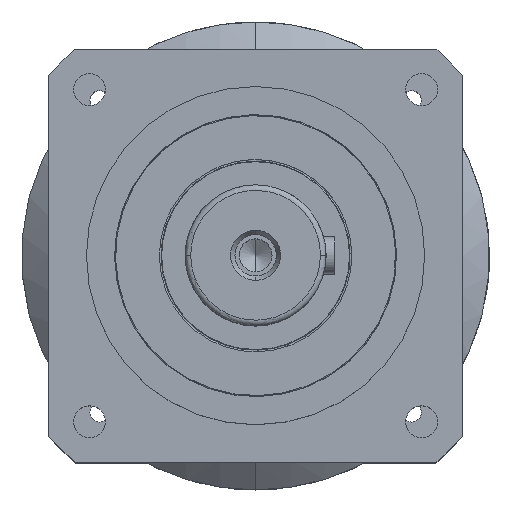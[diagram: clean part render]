
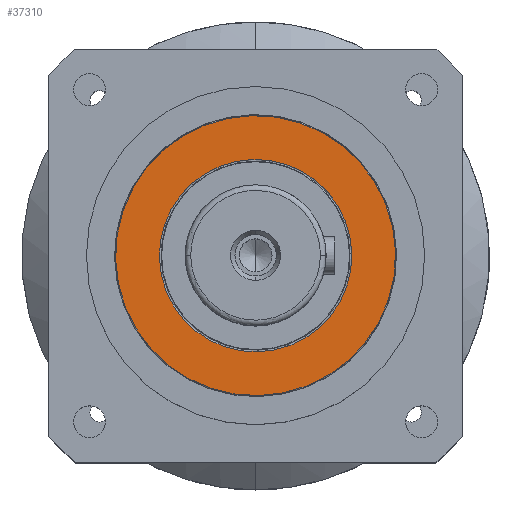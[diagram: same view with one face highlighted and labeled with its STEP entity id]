
A CAD part, top view. The second image highlights one B-rep face of the part: STEP entity #37310.
In plain terms, the highlighted planar face has unit normal (0, 0, 1) as drawn and (0, -1, 0) by its records, which use the part's own axes.
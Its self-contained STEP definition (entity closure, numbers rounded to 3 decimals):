
#2190 = ORIENTED_EDGE ( 'NONE', *, *, #36481, .T. ) ;
#3271 = EDGE_CURVE ( 'NONE', #9195, #16519, #29524, .T. ) ;
#3384 = CIRCLE ( 'NONE', #9752, 74.5 ) ;
#3562 = ORIENTED_EDGE ( 'NONE', *, *, #37799, .T. ) ;
#3924 = CARTESIAN_POINT ( 'NONE',  ( 0., 0., 0. ) ) ;
#5293 = CARTESIAN_POINT ( 'NONE',  ( 0., 0., 0. ) ) ;
#5297 = AXIS2_PLACEMENT_3D ( 'NONE', #26158, #26150, #26117 ) ;
#5760 = FACE_OUTER_BOUND ( 'NONE', #35293, .T. ) ;
#7057 = DIRECTION ( 'NONE',  ( 0., 0., 1. ) ) ;
#7872 = CARTESIAN_POINT ( 'NONE',  ( 0., 0., 0. ) ) ;
#8412 = DIRECTION ( 'NONE',  ( 0., 0., 1. ) ) ;
#9195 = VERTEX_POINT ( 'NONE', #37686 ) ;
#9752 = AXIS2_PLACEMENT_3D ( 'NONE', #3924, #25653, #7057 ) ;
#10259 = ORIENTED_EDGE ( 'NONE', *, *, #18902, .T. ) ;
#11024 = DIRECTION ( 'NONE',  ( 0., 0., 1. ) ) ;
#11617 = PLANE ( 'NONE',  #14296 ) ;
#13056 = FACE_BOUND ( 'NONE', #17910, .T. ) ;
#13707 = CARTESIAN_POINT ( 'NONE',  ( 0., 0., 74.5 ) ) ;
#14067 = VERTEX_POINT ( 'NONE', #13707 ) ;
#14296 = AXIS2_PLACEMENT_3D ( 'NONE', #30188, #33272, #14751 ) ;
#14751 = DIRECTION ( 'NONE',  ( 0., 0., -1. ) ) ;
#16519 = VERTEX_POINT ( 'NONE', #20685 ) ;
#17910 = EDGE_LOOP ( 'NONE', ( #3562, #24638 ) ) ;
#18902 = EDGE_CURVE ( 'NONE', #20858, #14067, #3384, .T. ) ;
#19898 = CIRCLE ( 'NONE', #31117, 74.5 ) ;
#20685 = CARTESIAN_POINT ( 'NONE',  ( 0., 0., 51.2 ) ) ;
#20858 = VERTEX_POINT ( 'NONE', #39896 ) ;
#23209 = CIRCLE ( 'NONE', #23892, 51.2 ) ;
#23892 = AXIS2_PLACEMENT_3D ( 'NONE', #7872, #29594, #11024 ) ;
#24638 = ORIENTED_EDGE ( 'NONE', *, *, #3271, .T. ) ;
#25653 = DIRECTION ( 'NONE',  ( 0., -1., 0. ) ) ;
#26117 = DIRECTION ( 'NONE',  ( 0., 0., 1. ) ) ;
#26150 = DIRECTION ( 'NONE',  ( 0., 1., 0. ) ) ;
#26158 = CARTESIAN_POINT ( 'NONE',  ( 0., 0., 0. ) ) ;
#27019 = DIRECTION ( 'NONE',  ( 0., -1., 0. ) ) ;
#29524 = CIRCLE ( 'NONE', #5297, 51.2 ) ;
#29594 = DIRECTION ( 'NONE',  ( 0., 1., 0. ) ) ;
#30188 = CARTESIAN_POINT ( 'NONE',  ( 0., 0., 74.5 ) ) ;
#31117 = AXIS2_PLACEMENT_3D ( 'NONE', #5293, #27019, #8412 ) ;
#33272 = DIRECTION ( 'NONE',  ( 0., -1., 0. ) ) ;
#35293 = EDGE_LOOP ( 'NONE', ( #2190, #10259 ) ) ;
#36481 = EDGE_CURVE ( 'NONE', #14067, #20858, #19898, .T. ) ;
#37310 = ADVANCED_FACE ( 'NONE', ( #13056, #5760 ), #11617, .T. ) ;
#37686 = CARTESIAN_POINT ( 'NONE',  ( 0., 0., -51.2 ) ) ;
#37799 = EDGE_CURVE ( 'NONE', #16519, #9195, #23209, .T. ) ;
#39896 = CARTESIAN_POINT ( 'NONE',  ( 0., 0., -74.5 ) ) ;
